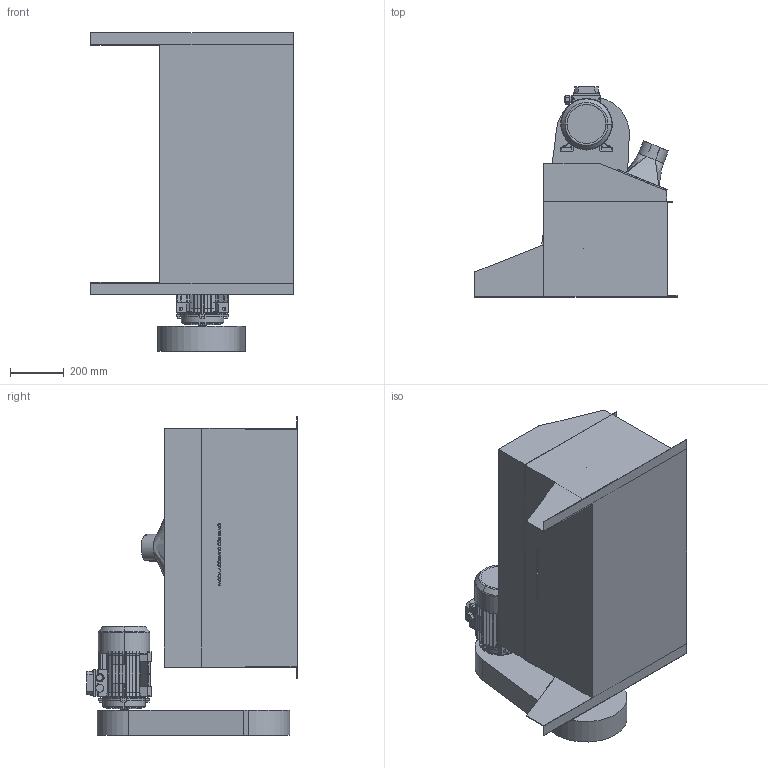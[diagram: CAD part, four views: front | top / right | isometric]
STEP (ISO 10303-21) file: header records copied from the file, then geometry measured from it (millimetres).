
FILE_DESCRIPTION (( 'STEP AP203' ), '1' );
FILE_NAME ('29335.step', '2019-03-14T14:30:33', ( 'PC' ), ( 'Hewlett-Packard Company' ), 'SwSTEP 2.0', 'SolidWorks 2016', '' );
FILE_SCHEMA (( 'CONFIG_CONTROL_DESIGN' ));
Products named in the file (1): 29335
Bounding box: 750 x 781.02 x 1182 mm (x, y, z)
Volume: 216739376.9 mm3; surface area: 4633537.4 mm2
Topology: 9 solids, 10 shells, 985 faces, 2550 edges, 1642 vertices
Faces by surface type: plane 663, cylinder 121, cone 109, bspline 86, torus 6
Entity records: 40777 total; most frequent: CARTESIAN_POINT 17288, ORIENTED_EDGE 5092, DIRECTION 4422, EDGE_CURVE 2546, VECTOR 1702, LINE 1702, VERTEX_POINT 1642, AXIS2_PLACEMENT_3D 1360
